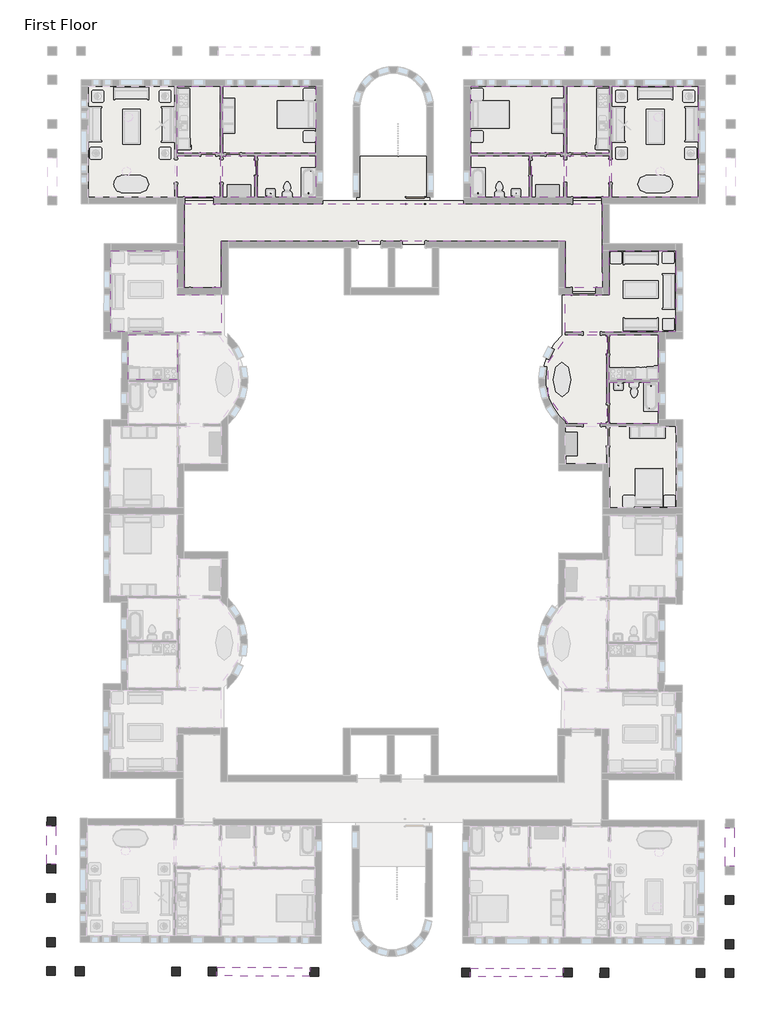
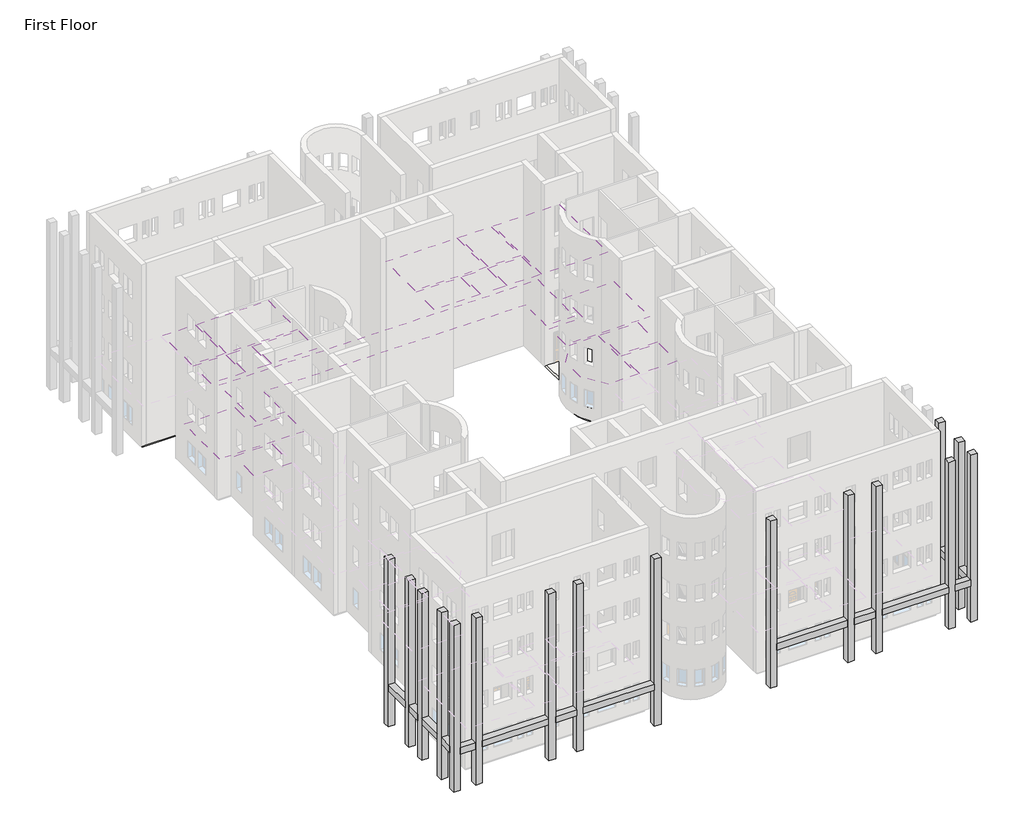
# One storey, part 17 of 23: 18 coverings, 16 columns, 5 slabs, 4 beams.
"""IFC4 building model written with IfcOpenShell, lengths in millimetres."""

from ifc_helpers import new_model, si_unit, point, frame, frame_2d, origin, place, context, project, spatial, polyline, circle_curve, trimmed, segment, composite_curve, outline, extrude, faceted_brep, element, save

model = new_model("IFC4")

# Units and contexts
model_context = context("Model", 3, world=origin())
ifc_project = project(units=[si_unit("LENGTHUNIT", "METRE", prefix="MILLI")], contexts=[model_context])

# Site, building, storey
site = spatial("IfcSite", under=ifc_project)
building = spatial("IfcBuilding", under=site)
storey = spatial("IfcBuildingStorey", under=building, Name="First Floor", Elevation=0.0)

# Beams
placement = place(None, origin())
element("IfcBeam", 1, ObjectType="M_Concrete-Rectangular Beam : 450 x 450", at=placement, inside=storey, context=model_context, shape_type="SweptSolid", body=[
    extrude(outline(polyline([(-1712.0689607, -43451.2055858), (-1713.3716449, -43901.2037003), (-2763.3672453, -43898.1641037), (-2762.0645611, -43448.1659892), (-1712.0689607, -43451.2055858)])), frame((0.0, 0.0, 2598.0), z_axis=(0.0, 0.0, 1.0), x_axis=(1.0, 0.0, 0.0)), (0.0, 0.0, 1.0), 450.0),
    extrude(outline(polyline([(-14955.3161596, -43862.8700448), (-14954.0134754, -43412.8719303), (-10112.0337638, -43426.888813), (-10113.3364481, -43876.8869274), (-14955.3161596, -43862.8700448)])), frame((0.0, 0.0, 2598.0), z_axis=(0.0, 0.0, 1.0), x_axis=(1.0, 0.0, 0.0)), (0.0, 0.0, 1.0), 450.0),
    extrude(outline(polyline([(-3212.0626755, -43446.863305), (-3213.3653598, -43896.8614194), (-7763.3462948, -43883.6898341), (-7762.0436106, -43433.6917196), (-3212.0626755, -43446.863305)])), frame((0.0, 0.0, 2598.0), z_axis=(0.0, 0.0, 1.0), x_axis=(1.0, 0.0, 0.0)), (0.0, 0.0, 1.0), 450.0),
    extrude(outline(polyline([(-8212.041725, -43432.3890354), (-8213.3444093, -43882.3871498), (-9663.3383336, -43878.1896117), (-9662.0356494, -43428.1914972), (-8212.041725, -43432.3890354)])), frame((0.0, 0.0, 2598.0), z_axis=(0.0, 0.0, 1.0), x_axis=(1.0, 0.0, 0.0)), (0.0, 0.0, 1.0), 450.0),
])
element("IfcBeam", 2, ObjectType="M_Concrete-Rectangular Beam : 450 x 450", at=placement, inside=storey, context=model_context, shape_type="SweptSolid", body=[
    extrude(outline(polyline([(-1690.8757352, -36130.2362615), (-1240.8776207, -36131.5389458), (-1246.6514068, -38126.0305886), (-1696.6495213, -38124.7279044), (-1690.8757352, -36130.2362615)])), frame((0.0, 0.0, 2598.0), z_axis=(0.0, 0.0, 1.0), x_axis=(1.0, 0.0, 0.0)), (0.0, 0.0, 1.0), 450.0),
    extrude(outline(polyline([(-1709.0293641, -42401.2099854), (-1259.0312496, -42402.5126697), (-1262.0708462, -43452.5082701), (-1712.0689607, -43451.2055858), (-1709.0293641, -42401.2099854)])), frame((0.0, 0.0, 2598.0), z_axis=(0.0, 0.0, 1.0), x_axis=(1.0, 0.0, 0.0)), (0.0, 0.0, 1.0), 450.0),
    extrude(outline(polyline([(-1257.7285653, -41952.5145552), (-1707.7266798, -41951.211871), (-1702.3712001, -40101.2196227), (-1252.3730856, -40102.5223069), (-1257.7285653, -41952.5145552)])), frame((0.0, 0.0, 2598.0), z_axis=(0.0, 0.0, 1.0), x_axis=(1.0, 0.0, 0.0)), (0.0, 0.0, 1.0), 450.0),
    extrude(outline(polyline([(-1251.0704013, -39652.5241925), (-1701.0685158, -39651.2215082), (-1697.9522056, -38574.7260188), (-1247.9540911, -38576.0287031), (-1251.0704013, -39652.5241925)])), frame((0.0, 0.0, 2598.0), z_axis=(0.0, 0.0, 1.0), x_axis=(1.0, 0.0, 0.0)), (0.0, 0.0, 1.0), 450.0),
])
element("IfcBeam", 3, ObjectType="M_Concrete-Rectangular Beam : 450 x 450", at=placement, inside=storey, context=model_context, shape_type="SweptSolid", body=[
    extrude(outline(polyline([(-36528.7257646, -43800.4179138), (-36527.4230803, -43350.4197994), (-35477.4274799, -43353.459396), (-35478.7301642, -43803.4575104), (-36528.7257646, -43800.4179138)])), frame((0.0, 0.0, 2598.0), z_axis=(0.0, 0.0, 1.0), x_axis=(1.0, 0.0, 0.0)), (0.0, 0.0, 1.0), 450.0),
    extrude(outline(polyline([(-23285.4785656, -43388.7534549), (-23286.7812498, -43838.7515694), (-28128.7609614, -43824.7346867), (-28127.4582771, -43374.7365723), (-23285.4785656, -43388.7534549)])), frame((0.0, 0.0, 2598.0), z_axis=(0.0, 0.0, 1.0), x_axis=(1.0, 0.0, 0.0)), (0.0, 0.0, 1.0), 450.0),
    extrude(outline(polyline([(-35028.7320497, -43804.7601947), (-35027.4293654, -43354.7620803), (-30477.4484304, -43367.9336656), (-30478.7511147, -43817.93178), (-35028.7320497, -43804.7601947)])), frame((0.0, 0.0, 2598.0), z_axis=(0.0, 0.0, 1.0), x_axis=(1.0, 0.0, 0.0)), (0.0, 0.0, 1.0), 450.0),
    extrude(outline(polyline([(-30028.7530002, -43819.2344643), (-30027.4503159, -43369.2363498), (-28577.4563916, -43373.433888), (-28578.7590758, -43823.4320025), (-30028.7530002, -43819.2344643)])), frame((0.0, 0.0, 2598.0), z_axis=(0.0, 0.0, 1.0), x_axis=(1.0, 0.0, 0.0)), (0.0, 0.0, 1.0), 450.0),
])
element("IfcBeam", 4, ObjectType="M_Concrete-Rectangular Beam : 450 x 450", at=placement, inside=storey, context=model_context, shape_type="SweptSolid", body=[
    extrude(outline(polyline([(-36956.2279692, -36028.1477908), (-36506.2298548, -36029.4504751), (-36512.0036409, -38023.9421179), (-36962.0017554, -38022.6394337), (-36956.2279692, -36028.1477908)])), frame((0.0, 0.0, 2598.0), z_axis=(0.0, 0.0, 1.0), x_axis=(1.0, 0.0, 0.0)), (0.0, 0.0, 1.0), 450.0),
    extrude(outline(polyline([(-36974.3815981, -42299.1215147), (-36524.3834837, -42300.424199), (-36527.4230803, -43350.4197994), (-36977.4211948, -43349.1171151), (-36974.3815981, -42299.1215147)])), frame((0.0, 0.0, 2598.0), z_axis=(0.0, 0.0, 1.0), x_axis=(1.0, 0.0, 0.0)), (0.0, 0.0, 1.0), 450.0),
    extrude(outline(polyline([(-36523.0807994, -41850.4260845), (-36973.0789139, -41849.1234003), (-36967.7234341, -39999.1311519), (-36517.7253197, -40000.4338362), (-36523.0807994, -41850.4260845)])), frame((0.0, 0.0, 2598.0), z_axis=(0.0, 0.0, 1.0), x_axis=(1.0, 0.0, 0.0)), (0.0, 0.0, 1.0), 450.0),
    extrude(outline(polyline([(-36516.4226354, -39550.4357218), (-36966.4207499, -39549.1330375), (-36963.3044396, -38472.6375481), (-36513.3063252, -38473.9402324), (-36516.4226354, -39550.4357218)])), frame((0.0, 0.0, 2598.0), z_axis=(0.0, 0.0, 1.0), x_axis=(1.0, 0.0, 0.0)), (0.0, 0.0, 1.0), 450.0),
])

# Columns
element("IfcColumn", 5, ObjectType="M_Concrete-Square-Column : 450 x 450mm", at=placement, inside=storey, context=model_context, shape_type="Brep", body=[
    faceted_brep([(-2763.3672453, -43898.1641037, 0.0), (-3213.3653598, -43896.8614194, 0.0), (-3212.0626755, -43446.863305, 0.0), (-2762.0645611, -43448.1659892, 0.0), (-2763.3672453, -43898.1641037, 12042.0), (-2763.3672453, -43898.1641037, 11742.0), (-2763.3672453, -43898.1641037, 9144.0), (-2763.3672453, -43898.1641037, 8694.0), (-2763.3672453, -43898.1641037, 6096.0), (-2763.3672453, -43898.1641037, 5646.0), (-2763.3672453, -43898.1641037, 3048.0), (-2763.3672453, -43898.1641037, 2598.0), (-2762.0645611, -43448.1659892, 2598.0), (-2762.0645611, -43448.1659892, 3048.0), (-2762.0645611, -43448.1659892, 5646.0), (-2762.0645611, -43448.1659892, 6096.0), (-2762.0645611, -43448.1659892, 8694.0), (-2762.0645611, -43448.1659892, 9144.0), (-2762.0645611, -43448.1659892, 11742.0), (-2762.0645611, -43448.1659892, 12042.0), (-3212.0626755, -43446.863305, 2598.0), (-3212.0626755, -43446.863305, 3048.0), (-3212.0626755, -43446.863305, 5646.0), (-3212.0626755, -43446.863305, 6096.0), (-3212.0626755, -43446.863305, 8694.0), (-3212.0626755, -43446.863305, 9144.0), (-3212.0626755, -43446.863305, 11742.0), (-3212.0626755, -43446.863305, 12042.0), (-3213.3653598, -43896.8614194, 2598.0), (-3213.3653598, -43896.8614194, 3048.0), (-3213.3653598, -43896.8614194, 5646.0), (-3213.3653598, -43896.8614194, 6096.0), (-3213.3653598, -43896.8614194, 8694.0), (-3213.3653598, -43896.8614194, 9144.0), (-3213.3653598, -43896.8614194, 11742.0), (-3213.3653598, -43896.8614194, 12042.0)], [[[0, 1, 2, 3]], [[4, 5, 6, 7, 8, 9, 10, 11, 0, 3, 12, 13, 14, 15, 16, 17, 18, 19]], [[19, 18, 17, 16, 15, 14, 13, 12, 3, 2, 20, 21, 22, 23, 24, 25, 26, 27]], [[27, 26, 25, 24, 23, 22, 21, 20, 2, 1, 28, 29, 30, 31, 32, 33, 34, 35]], [[35, 34, 33, 32, 31, 30, 29, 28, 1, 0, 11, 10, 9, 8, 7, 6, 5, 4]], [[4, 19, 27, 35]]]),
])
element("IfcColumn", 6, ObjectType="M_Concrete-Square-Column : 450 x 450mm", at=placement, inside=storey, context=model_context, shape_type="Brep", body=[
    faceted_brep([(-7763.3462948, -43883.6898341, 0.0), (-8213.3444093, -43882.3871498, 0.0), (-8212.041725, -43432.3890354, 0.0), (-7762.0436106, -43433.6917196, 0.0), (-7763.3462948, -43883.6898341, 12042.0), (-7763.3462948, -43883.6898341, 11742.0), (-7763.3462948, -43883.6898341, 9144.0), (-7763.3462948, -43883.6898341, 8694.0), (-7763.3462948, -43883.6898341, 6096.0), (-7763.3462948, -43883.6898341, 5646.0), (-7763.3462948, -43883.6898341, 3048.0), (-7763.3462948, -43883.6898341, 2598.0), (-7762.0436106, -43433.6917196, 2598.0), (-7762.0436106, -43433.6917196, 3048.0), (-7762.0436106, -43433.6917196, 5646.0), (-7762.0436106, -43433.6917196, 6096.0), (-7762.0436106, -43433.6917196, 8694.0), (-7762.0436106, -43433.6917196, 9144.0), (-7762.0436106, -43433.6917196, 11742.0), (-7762.0436106, -43433.6917196, 12042.0), (-8212.041725, -43432.3890354, 2598.0), (-8212.041725, -43432.3890354, 3048.0), (-8212.041725, -43432.3890354, 5646.0), (-8212.041725, -43432.3890354, 6096.0), (-8212.041725, -43432.3890354, 8694.0), (-8212.041725, -43432.3890354, 9144.0), (-8212.041725, -43432.3890354, 11742.0), (-8212.041725, -43432.3890354, 12042.0), (-8213.3444093, -43882.3871498, 2598.0), (-8213.3444093, -43882.3871498, 3048.0), (-8213.3444093, -43882.3871498, 5646.0), (-8213.3444093, -43882.3871498, 6096.0), (-8213.3444093, -43882.3871498, 8694.0), (-8213.3444093, -43882.3871498, 9144.0), (-8213.3444093, -43882.3871498, 11742.0), (-8213.3444093, -43882.3871498, 12042.0)], [[[0, 1, 2, 3]], [[4, 5, 6, 7, 8, 9, 10, 11, 0, 3, 12, 13, 14, 15, 16, 17, 18, 19]], [[19, 18, 17, 16, 15, 14, 13, 12, 3, 2, 20, 21, 22, 23, 24, 25, 26, 27]], [[27, 26, 25, 24, 23, 22, 21, 20, 2, 1, 28, 29, 30, 31, 32, 33, 34, 35]], [[35, 34, 33, 32, 31, 30, 29, 28, 1, 0, 11, 10, 9, 8, 7, 6, 5, 4]], [[4, 19, 27, 35]]]),
])
element("IfcColumn", 7, ObjectType="M_Concrete-Square-Column : 450 x 450mm", at=placement, inside=storey, context=model_context, shape_type="Brep", body=[
    faceted_brep([(-9663.3383336, -43878.1896117, 0.0), (-10113.3364481, -43876.8869274, 0.0), (-10112.0337638, -43426.888813, 0.0), (-9662.0356494, -43428.1914972, 0.0), (-9663.3383336, -43878.1896117, 12042.0), (-9663.3383336, -43878.1896117, 11742.0), (-9663.3383336, -43878.1896117, 9144.0), (-9663.3383336, -43878.1896117, 8694.0), (-9663.3383336, -43878.1896117, 6096.0), (-9663.3383336, -43878.1896117, 5646.0), (-9663.3383336, -43878.1896117, 3048.0), (-9663.3383336, -43878.1896117, 2598.0), (-9662.0356494, -43428.1914972, 2598.0), (-9662.0356494, -43428.1914972, 3048.0), (-9662.0356494, -43428.1914972, 5646.0), (-9662.0356494, -43428.1914972, 6096.0), (-9662.0356494, -43428.1914972, 8694.0), (-9662.0356494, -43428.1914972, 9144.0), (-9662.0356494, -43428.1914972, 11742.0), (-9662.0356494, -43428.1914972, 12042.0), (-10112.0337638, -43426.888813, 2598.0), (-10112.0337638, -43426.888813, 3048.0), (-10112.0337638, -43426.888813, 5646.0), (-10112.0337638, -43426.888813, 6096.0), (-10112.0337638, -43426.888813, 8694.0), (-10112.0337638, -43426.888813, 9144.0), (-10112.0337638, -43426.888813, 11742.0), (-10112.0337638, -43426.888813, 12042.0), (-10113.3364481, -43876.8869274, 2598.0), (-10113.3364481, -43876.8869274, 3048.0), (-10113.3364481, -43876.8869274, 5646.0), (-10113.3364481, -43876.8869274, 6096.0), (-10113.3364481, -43876.8869274, 8694.0), (-10113.3364481, -43876.8869274, 9144.0), (-10113.3364481, -43876.8869274, 11742.0), (-10113.3364481, -43876.8869274, 12042.0)], [[[0, 1, 2, 3]], [[4, 5, 6, 7, 8, 9, 10, 11, 0, 3, 12, 13, 14, 15, 16, 17, 18, 19]], [[19, 18, 17, 16, 15, 14, 13, 12, 3, 2, 20, 21, 22, 23, 24, 25, 26, 27]], [[27, 26, 25, 24, 23, 22, 21, 20, 2, 1, 28, 29, 30, 31, 32, 33, 34, 35]], [[35, 34, 33, 32, 31, 30, 29, 28, 1, 0, 11, 10, 9, 8, 7, 6, 5, 4]], [[4, 19, 27, 35]]]),
])
element("IfcColumn", 8, ObjectType="M_Concrete-Square-Column : 450 x 450mm", at=placement, inside=storey, context=model_context, shape_type="Brep", body=[
    faceted_brep([(-14955.3161596, -43862.8700448, 0.0), (-15405.3142741, -43861.5673605, 0.0), (-15404.0115898, -43411.569246, 0.0), (-14954.0134754, -43412.8719303, 0.0), (-14955.3161596, -43862.8700448, 12042.0), (-14955.3161596, -43862.8700448, 11742.0), (-14954.0134754, -43412.8719303, 11742.0), (-14954.0134754, -43412.8719303, 12042.0), (-15404.0115898, -43411.569246, 11742.0), (-15404.0115898, -43411.569246, 12042.0), (-15405.3142741, -43861.5673605, 11742.0), (-15405.3142741, -43861.5673605, 12042.0)], [[[0, 1, 2, 3]], [[4, 5, 0, 3, 6, 7]], [[7, 6, 3, 2, 8, 9]], [[9, 8, 2, 1, 10, 11]], [[11, 10, 1, 0, 5, 4]], [[4, 7, 9, 11]]]),
])
element("IfcColumn", 9, ObjectType="M_Concrete-Square-Column : 450 x 450mm", at=placement, inside=storey, context=model_context, shape_type="Brep", body=[
    faceted_brep([(-1263.3735305, -43902.5063845, 0.0), (-1713.3716449, -43901.2037003, 0.0), (-1712.0689607, -43451.2055858, 0.0), (-1262.0708462, -43452.5082701, 0.0), (-1263.3735305, -43902.5063845, 12042.0), (-1262.0708462, -43452.5082701, 11742.0), (-1262.0708462, -43452.5082701, 12042.0), (-1712.0689607, -43451.2055858, 11742.0), (-1712.0689607, -43451.2055858, 12042.0), (-1713.3716449, -43901.2037003, 11742.0), (-1713.3716449, -43901.2037003, 12042.0)], [[[0, 1, 2, 3]], [[4, 0, 3, 5, 6]], [[6, 5, 3, 2, 7, 8]], [[8, 7, 2, 1, 9, 10]], [[10, 9, 1, 0, 4]], [[4, 6, 8, 10]]]),
])
element("IfcColumn", 10, ObjectType="M_Concrete-Square-Column : 450 x 450mm", at=placement, inside=storey, context=model_context, shape_type="Brep", body=[
    faceted_brep([(-1259.0312496, -42402.5126697, 0.0), (-1709.0293641, -42401.2099854, 0.0), (-1707.7266798, -41951.211871, 0.0), (-1257.7285653, -41952.5145552, 0.0), (-1259.0312496, -42402.5126697, 12042.0), (-1259.0312496, -42402.5126697, 11742.0), (-1259.0312496, -42402.5126697, 9144.0), (-1259.0312496, -42402.5126697, 8694.0), (-1259.0312496, -42402.5126697, 6096.0), (-1259.0312496, -42402.5126697, 5646.0), (-1259.0312496, -42402.5126697, 3048.0), (-1259.0312496, -42402.5126697, 2598.0), (-1257.7285653, -41952.5145552, 2598.0), (-1257.7285653, -41952.5145552, 3048.0), (-1257.7285653, -41952.5145552, 5646.0), (-1257.7285653, -41952.5145552, 6096.0), (-1257.7285653, -41952.5145552, 8694.0), (-1257.7285653, -41952.5145552, 9144.0), (-1257.7285653, -41952.5145552, 11742.0), (-1257.7285653, -41952.5145552, 12042.0), (-1707.7266798, -41951.211871, 2598.0), (-1707.7266798, -41951.211871, 3048.0), (-1707.7266798, -41951.211871, 5646.0), (-1707.7266798, -41951.211871, 6096.0), (-1707.7266798, -41951.211871, 8694.0), (-1707.7266798, -41951.211871, 9144.0), (-1707.7266798, -41951.211871, 11742.0), (-1707.7266798, -41951.211871, 12042.0), (-1709.0293641, -42401.2099854, 2598.0), (-1709.0293641, -42401.2099854, 3048.0), (-1709.0293641, -42401.2099854, 5646.0), (-1709.0293641, -42401.2099854, 6096.0), (-1709.0293641, -42401.2099854, 8694.0), (-1709.0293641, -42401.2099854, 9144.0), (-1709.0293641, -42401.2099854, 11742.0), (-1709.0293641, -42401.2099854, 12042.0)], [[[0, 1, 2, 3]], [[4, 5, 6, 7, 8, 9, 10, 11, 0, 3, 12, 13, 14, 15, 16, 17, 18, 19]], [[19, 18, 17, 16, 15, 14, 13, 12, 3, 2, 20, 21, 22, 23, 24, 25, 26, 27]], [[27, 26, 25, 24, 23, 22, 21, 20, 2, 1, 28, 29, 30, 31, 32, 33, 34, 35]], [[35, 34, 33, 32, 31, 30, 29, 28, 1, 0, 11, 10, 9, 8, 7, 6, 5, 4]], [[4, 19, 27, 35]]]),
])
element("IfcColumn", 11, ObjectType="M_Concrete-Square-Column : 450 x 450mm", at=placement, inside=storey, context=model_context, shape_type="Brep", body=[
    faceted_brep([(-1252.3730856, -40102.5223069, 0.0), (-1702.3712001, -40101.2196227, 0.0), (-1701.0685158, -39651.2215082, 0.0), (-1251.0704013, -39652.5241925, 0.0), (-1252.3730856, -40102.5223069, 12042.0), (-1252.3730856, -40102.5223069, 11742.0), (-1252.3730856, -40102.5223069, 9144.0), (-1252.3730856, -40102.5223069, 8694.0), (-1252.3730856, -40102.5223069, 6096.0), (-1252.3730856, -40102.5223069, 5646.0), (-1252.3730856, -40102.5223069, 3048.0), (-1252.3730856, -40102.5223069, 2598.0), (-1251.0704013, -39652.5241925, 2598.0), (-1251.0704013, -39652.5241925, 3048.0), (-1251.0704013, -39652.5241925, 5646.0), (-1251.0704013, -39652.5241925, 6096.0), (-1251.0704013, -39652.5241925, 8694.0), (-1251.0704013, -39652.5241925, 9144.0), (-1251.0704013, -39652.5241925, 11742.0), (-1251.0704013, -39652.5241925, 12042.0), (-1701.0685158, -39651.2215082, 2598.0), (-1701.0685158, -39651.2215082, 3048.0), (-1701.0685158, -39651.2215082, 5646.0), (-1701.0685158, -39651.2215082, 6096.0), (-1701.0685158, -39651.2215082, 8694.0), (-1701.0685158, -39651.2215082, 9144.0), (-1701.0685158, -39651.2215082, 11742.0), (-1701.0685158, -39651.2215082, 12042.0), (-1702.3712001, -40101.2196227, 2598.0), (-1702.3712001, -40101.2196227, 3048.0), (-1702.3712001, -40101.2196227, 5646.0), (-1702.3712001, -40101.2196227, 6096.0), (-1702.3712001, -40101.2196227, 8694.0), (-1702.3712001, -40101.2196227, 9144.0), (-1702.3712001, -40101.2196227, 11742.0), (-1702.3712001, -40101.2196227, 12042.0)], [[[0, 1, 2, 3]], [[4, 5, 6, 7, 8, 9, 10, 11, 0, 3, 12, 13, 14, 15, 16, 17, 18, 19]], [[19, 18, 17, 16, 15, 14, 13, 12, 3, 2, 20, 21, 22, 23, 24, 25, 26, 27]], [[27, 26, 25, 24, 23, 22, 21, 20, 2, 1, 28, 29, 30, 31, 32, 33, 34, 35]], [[35, 34, 33, 32, 31, 30, 29, 28, 1, 0, 11, 10, 9, 8, 7, 6, 5, 4]], [[4, 19, 27, 35]]]),
])
element("IfcColumn", 12, ObjectType="M_Concrete-Square-Column : 450 x 450mm", at=placement, inside=storey, context=model_context, shape_type="Brep", body=[
    faceted_brep([(-35478.7301642, -43803.4575104, 0.0), (-35477.4274799, -43353.459396, 0.0), (-35027.4293654, -43354.7620803, 0.0), (-35028.7320497, -43804.7601947, 0.0), (-35478.7301642, -43803.4575104, 12042.0), (-35477.4274799, -43353.459396, 12042.0), (-35477.4274799, -43353.459396, 11742.0), (-35477.4274799, -43353.459396, 9144.0), (-35477.4274799, -43353.459396, 8694.0), (-35477.4274799, -43353.459396, 6096.0), (-35477.4274799, -43353.459396, 5646.0), (-35477.4274799, -43353.459396, 3048.0), (-35477.4274799, -43353.459396, 2598.0), (-35478.7301642, -43803.4575104, 2598.0), (-35478.7301642, -43803.4575104, 3048.0), (-35478.7301642, -43803.4575104, 5646.0), (-35478.7301642, -43803.4575104, 6096.0), (-35478.7301642, -43803.4575104, 8694.0), (-35478.7301642, -43803.4575104, 9144.0), (-35478.7301642, -43803.4575104, 11742.0), (-35027.4293654, -43354.7620803, 12042.0), (-35027.4293654, -43354.7620803, 11742.0), (-35027.4293654, -43354.7620803, 9144.0), (-35027.4293654, -43354.7620803, 8694.0), (-35027.4293654, -43354.7620803, 6096.0), (-35027.4293654, -43354.7620803, 5646.0), (-35027.4293654, -43354.7620803, 3048.0), (-35027.4293654, -43354.7620803, 2598.0), (-35028.7320497, -43804.7601947, 12042.0), (-35028.7320497, -43804.7601947, 11742.0), (-35028.7320497, -43804.7601947, 9144.0), (-35028.7320497, -43804.7601947, 8694.0), (-35028.7320497, -43804.7601947, 6096.0), (-35028.7320497, -43804.7601947, 5646.0), (-35028.7320497, -43804.7601947, 3048.0), (-35028.7320497, -43804.7601947, 2598.0)], [[[0, 1, 2, 3]], [[4, 5, 6, 7, 8, 9, 10, 11, 12, 1, 0, 13, 14, 15, 16, 17, 18, 19]], [[5, 20, 21, 22, 23, 24, 25, 26, 27, 2, 1, 12, 11, 10, 9, 8, 7, 6]], [[20, 28, 29, 30, 31, 32, 33, 34, 35, 3, 2, 27, 26, 25, 24, 23, 22, 21]], [[28, 4, 19, 18, 17, 16, 15, 14, 13, 0, 3, 35, 34, 33, 32, 31, 30, 29]], [[4, 28, 20, 5]]]),
])
element("IfcColumn", 13, ObjectType="M_Concrete-Square-Column : 450 x 450mm", at=placement, inside=storey, context=model_context, shape_type="Brep", body=[
    faceted_brep([(-30478.7511147, -43817.93178, 0.0), (-30477.4484304, -43367.9336656, 0.0), (-30027.4503159, -43369.2363498, 0.0), (-30028.7530002, -43819.2344643, 0.0), (-30478.7511147, -43817.93178, 12042.0), (-30477.4484304, -43367.9336656, 12042.0), (-30477.4484304, -43367.9336656, 11742.0), (-30477.4484304, -43367.9336656, 9144.0), (-30477.4484304, -43367.9336656, 8694.0), (-30477.4484304, -43367.9336656, 6096.0), (-30477.4484304, -43367.9336656, 5646.0), (-30477.4484304, -43367.9336656, 3048.0), (-30477.4484304, -43367.9336656, 2598.0), (-30478.7511147, -43817.93178, 2598.0), (-30478.7511147, -43817.93178, 3048.0), (-30478.7511147, -43817.93178, 5646.0), (-30478.7511147, -43817.93178, 6096.0), (-30478.7511147, -43817.93178, 8694.0), (-30478.7511147, -43817.93178, 9144.0), (-30478.7511147, -43817.93178, 11742.0), (-30027.4503159, -43369.2363498, 12042.0), (-30027.4503159, -43369.2363498, 11742.0), (-30027.4503159, -43369.2363498, 9144.0), (-30027.4503159, -43369.2363498, 8694.0), (-30027.4503159, -43369.2363498, 6096.0), (-30027.4503159, -43369.2363498, 5646.0), (-30027.4503159, -43369.2363498, 3048.0), (-30027.4503159, -43369.2363498, 2598.0), (-30028.7530002, -43819.2344643, 12042.0), (-30028.7530002, -43819.2344643, 11742.0), (-30028.7530002, -43819.2344643, 9144.0), (-30028.7530002, -43819.2344643, 8694.0), (-30028.7530002, -43819.2344643, 6096.0), (-30028.7530002, -43819.2344643, 5646.0), (-30028.7530002, -43819.2344643, 3048.0), (-30028.7530002, -43819.2344643, 2598.0)], [[[0, 1, 2, 3]], [[4, 5, 6, 7, 8, 9, 10, 11, 12, 1, 0, 13, 14, 15, 16, 17, 18, 19]], [[5, 20, 21, 22, 23, 24, 25, 26, 27, 2, 1, 12, 11, 10, 9, 8, 7, 6]], [[20, 28, 29, 30, 31, 32, 33, 34, 35, 3, 2, 27, 26, 25, 24, 23, 22, 21]], [[28, 4, 19, 18, 17, 16, 15, 14, 13, 0, 3, 35, 34, 33, 32, 31, 30, 29]], [[4, 28, 20, 5]]]),
])
element("IfcColumn", 14, ObjectType="M_Concrete-Square-Column : 450 x 450mm", at=placement, inside=storey, context=model_context, shape_type="Brep", body=[
    faceted_brep([(-28578.7590758, -43823.4320025, 0.0), (-28577.4563916, -43373.433888, 0.0), (-28127.4582771, -43374.7365723, 0.0), (-28128.7609614, -43824.7346867, 0.0), (-28578.7590758, -43823.4320025, 12042.0), (-28577.4563916, -43373.433888, 12042.0), (-28577.4563916, -43373.433888, 11742.0), (-28577.4563916, -43373.433888, 9144.0), (-28577.4563916, -43373.433888, 8694.0), (-28577.4563916, -43373.433888, 6096.0), (-28577.4563916, -43373.433888, 5646.0), (-28577.4563916, -43373.433888, 3048.0), (-28577.4563916, -43373.433888, 2598.0), (-28578.7590758, -43823.4320025, 2598.0), (-28578.7590758, -43823.4320025, 3048.0), (-28578.7590758, -43823.4320025, 5646.0), (-28578.7590758, -43823.4320025, 6096.0), (-28578.7590758, -43823.4320025, 8694.0), (-28578.7590758, -43823.4320025, 9144.0), (-28578.7590758, -43823.4320025, 11742.0), (-28127.4582771, -43374.7365723, 12042.0), (-28127.4582771, -43374.7365723, 11742.0), (-28127.4582771, -43374.7365723, 9144.0), (-28127.4582771, -43374.7365723, 8694.0), (-28127.4582771, -43374.7365723, 6096.0), (-28127.4582771, -43374.7365723, 5646.0), (-28127.4582771, -43374.7365723, 3048.0), (-28127.4582771, -43374.7365723, 2598.0), (-28128.7609614, -43824.7346867, 12042.0), (-28128.7609614, -43824.7346867, 11742.0), (-28128.7609614, -43824.7346867, 9144.0), (-28128.7609614, -43824.7346867, 8694.0), (-28128.7609614, -43824.7346867, 6096.0), (-28128.7609614, -43824.7346867, 5646.0), (-28128.7609614, -43824.7346867, 3048.0), (-28128.7609614, -43824.7346867, 2598.0)], [[[0, 1, 2, 3]], [[4, 5, 6, 7, 8, 9, 10, 11, 12, 1, 0, 13, 14, 15, 16, 17, 18, 19]], [[5, 20, 21, 22, 23, 24, 25, 26, 27, 2, 1, 12, 11, 10, 9, 8, 7, 6]], [[20, 28, 29, 30, 31, 32, 33, 34, 35, 3, 2, 27, 26, 25, 24, 23, 22, 21]], [[28, 4, 19, 18, 17, 16, 15, 14, 13, 0, 3, 35, 34, 33, 32, 31, 30, 29]], [[4, 28, 20, 5]]]),
])
element("IfcColumn", 15, ObjectType="M_Concrete-Square-Column : 450 x 450mm", at=placement, inside=storey, context=model_context, shape_type="Brep", body=[
    faceted_brep([(-23286.7812498, -43838.7515694, 0.0), (-23285.4785656, -43388.7534549, 0.0), (-22835.4804511, -43390.0561392, 0.0), (-22836.7831354, -43840.0542536, 0.0), (-23286.7812498, -43838.7515694, 12042.0), (-23285.4785656, -43388.7534549, 12042.0), (-23285.4785656, -43388.7534549, 11742.0), (-23286.7812498, -43838.7515694, 11742.0), (-22835.4804511, -43390.0561392, 12042.0), (-22835.4804511, -43390.0561392, 11742.0), (-22836.7831354, -43840.0542536, 12042.0), (-22836.7831354, -43840.0542536, 11742.0)], [[[0, 1, 2, 3]], [[4, 5, 6, 1, 0, 7]], [[5, 8, 9, 2, 1, 6]], [[8, 10, 11, 3, 2, 9]], [[10, 4, 7, 0, 3, 11]], [[4, 10, 8, 5]]]),
])
element("IfcColumn", 16, ObjectType="M_Concrete-Square-Column : 450 x 450mm", at=placement, inside=storey, context=model_context, shape_type="Brep", body=[
    faceted_brep([(-36978.723879, -43799.1152296, 0.0), (-36977.4211948, -43349.1171151, 0.0), (-36527.4230803, -43350.4197994, 0.0), (-36528.7257646, -43800.4179138, 0.0), (-36978.723879, -43799.1152296, 12042.0), (-36977.4211948, -43349.1171151, 12042.0), (-36977.4211948, -43349.1171151, 11742.0), (-36527.4230803, -43350.4197994, 12042.0), (-36527.4230803, -43350.4197994, 11742.0), (-36528.7257646, -43800.4179138, 12042.0), (-36528.7257646, -43800.4179138, 11742.0)], [[[0, 1, 2, 3]], [[4, 5, 6, 1, 0]], [[5, 7, 8, 2, 1, 6]], [[7, 9, 10, 3, 2, 8]], [[9, 4, 0, 3, 10]], [[4, 9, 7, 5]]]),
])
element("IfcColumn", 17, ObjectType="M_Concrete-Square-Column : 450 x 450mm", at=placement, inside=storey, context=model_context, shape_type="Brep", body=[
    faceted_brep([(-36974.3815981, -42299.1215147, 0.0), (-36973.0789139, -41849.1234003, 0.0), (-36523.0807994, -41850.4260845, 0.0), (-36524.3834837, -42300.424199, 0.0), (-36974.3815981, -42299.1215147, 12042.0), (-36973.0789139, -41849.1234003, 12042.0), (-36973.0789139, -41849.1234003, 11742.0), (-36973.0789139, -41849.1234003, 9144.0), (-36973.0789139, -41849.1234003, 8694.0), (-36973.0789139, -41849.1234003, 6096.0), (-36973.0789139, -41849.1234003, 5646.0), (-36973.0789139, -41849.1234003, 3048.0), (-36973.0789139, -41849.1234003, 2598.0), (-36974.3815981, -42299.1215147, 2598.0), (-36974.3815981, -42299.1215147, 3048.0), (-36974.3815981, -42299.1215147, 5646.0), (-36974.3815981, -42299.1215147, 6096.0), (-36974.3815981, -42299.1215147, 8694.0), (-36974.3815981, -42299.1215147, 9144.0), (-36974.3815981, -42299.1215147, 11742.0), (-36523.0807994, -41850.4260845, 12042.0), (-36523.0807994, -41850.4260845, 11742.0), (-36523.0807994, -41850.4260845, 9144.0), (-36523.0807994, -41850.4260845, 8694.0), (-36523.0807994, -41850.4260845, 6096.0), (-36523.0807994, -41850.4260845, 5646.0), (-36523.0807994, -41850.4260845, 3048.0), (-36523.0807994, -41850.4260845, 2598.0), (-36524.3834837, -42300.424199, 12042.0), (-36524.3834837, -42300.424199, 11742.0), (-36524.3834837, -42300.424199, 9144.0), (-36524.3834837, -42300.424199, 8694.0), (-36524.3834837, -42300.424199, 6096.0), (-36524.3834837, -42300.424199, 5646.0), (-36524.3834837, -42300.424199, 3048.0), (-36524.3834837, -42300.424199, 2598.0)], [[[0, 1, 2, 3]], [[4, 5, 6, 7, 8, 9, 10, 11, 12, 1, 0, 13, 14, 15, 16, 17, 18, 19]], [[5, 20, 21, 22, 23, 24, 25, 26, 27, 2, 1, 12, 11, 10, 9, 8, 7, 6]], [[20, 28, 29, 30, 31, 32, 33, 34, 35, 3, 2, 27, 26, 25, 24, 23, 22, 21]], [[28, 4, 19, 18, 17, 16, 15, 14, 13, 0, 3, 35, 34, 33, 32, 31, 30, 29]], [[4, 28, 20, 5]]]),
])
element("IfcColumn", 18, ObjectType="M_Concrete-Square-Column : 450 x 450mm", at=placement, inside=storey, context=model_context, shape_type="Brep", body=[
    faceted_brep([(-36967.7234341, -39999.1311519, 0.0), (-36966.4207499, -39549.1330375, 0.0), (-36516.4226354, -39550.4357218, 0.0), (-36517.7253197, -40000.4338362, 0.0), (-36967.7234341, -39999.1311519, 12042.0), (-36966.4207499, -39549.1330375, 12042.0), (-36966.4207499, -39549.1330375, 11742.0), (-36966.4207499, -39549.1330375, 9144.0), (-36966.4207499, -39549.1330375, 8694.0), (-36966.4207499, -39549.1330375, 6096.0), (-36966.4207499, -39549.1330375, 5646.0), (-36966.4207499, -39549.1330375, 3048.0), (-36966.4207499, -39549.1330375, 2598.0), (-36967.7234341, -39999.1311519, 2598.0), (-36967.7234341, -39999.1311519, 3048.0), (-36967.7234341, -39999.1311519, 5646.0), (-36967.7234341, -39999.1311519, 6096.0), (-36967.7234341, -39999.1311519, 8694.0), (-36967.7234341, -39999.1311519, 9144.0), (-36967.7234341, -39999.1311519, 11742.0), (-36516.4226354, -39550.4357218, 12042.0), (-36516.4226354, -39550.4357218, 11742.0), (-36516.4226354, -39550.4357218, 9144.0), (-36516.4226354, -39550.4357218, 8694.0), (-36516.4226354, -39550.4357218, 6096.0), (-36516.4226354, -39550.4357218, 5646.0), (-36516.4226354, -39550.4357218, 3048.0), (-36516.4226354, -39550.4357218, 2598.0), (-36517.7253197, -40000.4338362, 12042.0), (-36517.7253197, -40000.4338362, 11742.0), (-36517.7253197, -40000.4338362, 9144.0), (-36517.7253197, -40000.4338362, 8694.0), (-36517.7253197, -40000.4338362, 6096.0), (-36517.7253197, -40000.4338362, 5646.0), (-36517.7253197, -40000.4338362, 3048.0), (-36517.7253197, -40000.4338362, 2598.0)], [[[0, 1, 2, 3]], [[4, 5, 6, 7, 8, 9, 10, 11, 12, 1, 0, 13, 14, 15, 16, 17, 18, 19]], [[5, 20, 21, 22, 23, 24, 25, 26, 27, 2, 1, 12, 11, 10, 9, 8, 7, 6]], [[20, 28, 29, 30, 31, 32, 33, 34, 35, 3, 2, 27, 26, 25, 24, 23, 22, 21]], [[28, 4, 19, 18, 17, 16, 15, 14, 13, 0, 3, 35, 34, 33, 32, 31, 30, 29]], [[4, 28, 20, 5]]]),
])
element("IfcColumn", 19, ObjectType="M_Concrete-Square-Column : 450 x 450mm", at=placement, inside=storey, context=model_context, shape_type="Brep", body=[
    faceted_brep([(-36963.3044396, -38472.6375481, 0.0), (-36962.0017554, -38022.6394337, 0.0), (-36512.0036409, -38023.9421179, 0.0), (-36513.3063252, -38473.9402324, 0.0), (-36963.3044396, -38472.6375481, 12042.0), (-36962.0017554, -38022.6394337, 12042.0), (-36962.0017554, -38022.6394337, 11742.0), (-36962.0017554, -38022.6394337, 9144.0), (-36962.0017554, -38022.6394337, 8694.0), (-36962.0017554, -38022.6394337, 6096.0), (-36962.0017554, -38022.6394337, 5646.0), (-36962.0017554, -38022.6394337, 3048.0), (-36962.0017554, -38022.6394337, 2598.0), (-36963.3044396, -38472.6375481, 2598.0), (-36963.3044396, -38472.6375481, 3048.0), (-36963.3044396, -38472.6375481, 5646.0), (-36963.3044396, -38472.6375481, 6096.0), (-36963.3044396, -38472.6375481, 8694.0), (-36963.3044396, -38472.6375481, 9144.0), (-36963.3044396, -38472.6375481, 11742.0), (-36512.0036409, -38023.9421179, 12042.0), (-36512.0036409, -38023.9421179, 11742.0), (-36512.0036409, -38023.9421179, 9144.0), (-36512.0036409, -38023.9421179, 8694.0), (-36512.0036409, -38023.9421179, 6096.0), (-36512.0036409, -38023.9421179, 5646.0), (-36512.0036409, -38023.9421179, 3048.0), (-36512.0036409, -38023.9421179, 2598.0), (-36513.3063252, -38473.9402324, 12042.0), (-36513.3063252, -38473.9402324, 11742.0), (-36513.3063252, -38473.9402324, 9144.0), (-36513.3063252, -38473.9402324, 8694.0), (-36513.3063252, -38473.9402324, 6096.0), (-36513.3063252, -38473.9402324, 5646.0), (-36513.3063252, -38473.9402324, 3048.0), (-36513.3063252, -38473.9402324, 2598.0)], [[[0, 1, 2, 3]], [[4, 5, 6, 7, 8, 9, 10, 11, 12, 1, 0, 13, 14, 15, 16, 17, 18, 19]], [[5, 20, 21, 22, 23, 24, 25, 26, 27, 2, 1, 12, 11, 10, 9, 8, 7, 6]], [[20, 28, 29, 30, 31, 32, 33, 34, 35, 3, 2, 27, 26, 25, 24, 23, 22, 21]], [[28, 4, 19, 18, 17, 16, 15, 14, 13, 0, 3, 35, 34, 33, 32, 31, 30, 29]], [[4, 28, 20, 5]]]),
])
element("IfcColumn", 20, ObjectType="M_Concrete-Square-Column : 450 x 450mm", at=placement, inside=storey, context=model_context, shape_type="Brep", body=[
    faceted_brep([(-36956.2279692, -36028.1477908, 0.0), (-36954.925285, -35578.1496764, 0.0), (-36504.9271705, -35579.4523606, 0.0), (-36506.2298548, -36029.4504751, 0.0), (-36956.2279692, -36028.1477908, 12042.0), (-36954.925285, -35578.1496764, 12042.0), (-36954.925285, -35578.1496764, 11742.0), (-36956.2279692, -36028.1477908, 11742.0), (-36504.9271705, -35579.4523606, 12042.0), (-36504.9271705, -35579.4523606, 11742.0), (-36506.2298548, -36029.4504751, 12042.0), (-36506.2298548, -36029.4504751, 11742.0)], [[[0, 1, 2, 3]], [[4, 5, 6, 1, 0, 7]], [[5, 8, 9, 2, 1, 6]], [[8, 10, 11, 3, 2, 9]], [[10, 4, 7, 0, 3, 11]], [[4, 10, 8, 5]]]),
])

# Coverings
element("IfcCovering", 21, ObjectType="GWB on Metal stud", at=placement, inside=storey, context=model_context, shape_type="SweptSolid", body=[
    extrude(outline(polyline([(-14935.3416203, 2406.1188386), (-10086.8416203, 2406.1188386), (-10086.8416203, -1070.3811614), (-14935.3416203, -1070.3811614), (-14935.3416203, 2406.1188386)])), frame((0.0, 0.0, 2590.0), z_axis=(0.0, 0.0, 1.0), x_axis=(1.0, 0.0, 0.0)), (0.0, 0.0, 1.0), 57.0),
])
element("IfcCovering", 22, ObjectType="GWB on Metal stud", at=placement, inside=storey, context=model_context, shape_type="SweptSolid", body=[
    extrude(outline(polyline([(-9951.3416203, -1070.3811614), (-9951.3416203, 2406.1188386), (-7733.0916203, 2406.1188386), (-7733.0916203, -1070.3811614), (-9951.3416203, -1070.3811614)])), frame((0.0, 0.0, 2590.0), z_axis=(0.0, 0.0, 1.0), x_axis=(1.0, 0.0, 0.0)), (0.0, 0.0, 1.0), 57.0),
])
element("IfcCovering", 23, ObjectType="GWB on Metal stud", at=placement, inside=storey, context=model_context, shape_type="SweptSolid", body=[
    extrude(outline(polyline([(-7597.5916203, -3339.8811614), (-7597.5916203, 2406.1188386), (-3093.3416203, 2406.1188386), (-3093.3416203, -3339.8811614), (-7597.5916203, -3339.8811614)])), frame((0.0, 0.0, 2590.0), z_axis=(0.0, 0.0, 1.0), x_axis=(1.0, 0.0, 0.0)), (0.0, 0.0, 1.0), 57.0),
])
element("IfcCovering", 24, ObjectType="GWB on Metal stud", at=placement, inside=storey, context=model_context, shape_type="SweptSolid", body=[
    extrude(outline(polyline([(-7733.0916203, -3339.8811614), (-9951.3416203, -3339.8811614), (-9951.3416203, -1205.8811614), (-7733.0916203, -1205.8811614), (-7733.0916203, -3339.8811614)])), frame((0.0, 0.0, 2590.0), z_axis=(0.0, 0.0, 1.0), x_axis=(1.0, 0.0, 0.0)), (0.0, 0.0, 1.0), 57.0),
])
element("IfcCovering", 25, ObjectType="GWB on Metal stud", at=placement, inside=storey, context=model_context, shape_type="SweptSolid", body=[
    extrude(outline(polyline([(-11887.3416203, -1205.8811614), (-11887.3416203, -3339.8811614), (-14935.3416203, -3339.8811614), (-14935.3416203, -1205.8811614), (-11887.3416203, -1205.8811614)])), frame((0.0, 0.0, 2590.0), z_axis=(0.0, 0.0, 1.0), x_axis=(1.0, 0.0, 0.0)), (0.0, 0.0, 1.0), 57.0),
])
element("IfcCovering", 26, ObjectType="GWB on Metal stud", at=placement, inside=storey, context=model_context, shape_type="SweptSolid", body=[
    extrude(outline(polyline([(-10086.8416203, -3339.8811614), (-11751.8416203, -3339.8811614), (-11751.8416203, -1205.8811614), (-10086.8416203, -1205.8811614), (-10086.8416203, -3339.8811614)])), frame((0.0, 0.0, 2590.0), z_axis=(0.0, 0.0, 1.0), x_axis=(1.0, 0.0, 0.0)), (0.0, 0.0, 1.0), 57.0),
])
element("IfcCovering", 27, ObjectType="GWB on Metal stud", at=placement, inside=storey, context=model_context, shape_type="SweptSolid", body=[
    extrude(outline(polyline([(-22978.8416203, 2406.1188386), (-22978.8416203, -1070.3811614), (-27827.3416203, -1070.3811614), (-27827.3416203, 2406.1188386), (-22978.8416203, 2406.1188386)])), frame((0.0, 0.0, 2590.0), z_axis=(0.0, 0.0, 1.0), x_axis=(1.0, 0.0, 0.0)), (0.0, 0.0, 1.0), 57.0),
])
element("IfcCovering", 28, ObjectType="GWB on Metal stud", at=placement, inside=storey, context=model_context, shape_type="SweptSolid", body=[
    extrude(outline(polyline([(-27962.8416203, -1070.3811614), (-30181.0916203, -1070.3811614), (-30181.0916203, 2406.1188386), (-27962.8416203, 2406.1188386), (-27962.8416203, -1070.3811614)])), frame((0.0, 0.0, 2590.0), z_axis=(0.0, 0.0, 1.0), x_axis=(1.0, 0.0, 0.0)), (0.0, 0.0, 1.0), 57.0),
])
element("IfcCovering", 29, ObjectType="GWB on Metal stud", at=placement, inside=storey, context=model_context, shape_type="SweptSolid", body=[
    extrude(outline(polyline([(-30181.0916203, -3339.8811614), (-30181.0916203, -1205.8811614), (-27962.8416203, -1205.8811614), (-27962.8416203, -3339.8811614), (-30181.0916203, -3339.8811614)])), frame((0.0, 0.0, 2590.0), z_axis=(0.0, 0.0, 1.0), x_axis=(1.0, 0.0, 0.0)), (0.0, 0.0, 1.0), 57.0),
])
element("IfcCovering", 30, ObjectType="GWB on Metal stud", at=placement, inside=storey, context=model_context, shape_type="SweptSolid", body=[
    extrude(outline(polyline([(-26026.8416203, -1205.8811614), (-22978.8416203, -1205.8811614), (-22978.8416203, -3339.8811614), (-26026.8416203, -3339.8811614), (-26026.8416203, -1205.8811614)])), frame((0.0, 0.0, 2590.0), z_axis=(0.0, 0.0, 1.0), x_axis=(1.0, 0.0, 0.0)), (0.0, 0.0, 1.0), 57.0),
])
element("IfcCovering", 31, ObjectType="GWB on Metal stud", at=placement, inside=storey, context=model_context, shape_type="SweptSolid", body=[
    extrude(outline(polyline([(-27827.3416203, -3339.8811614), (-27827.3416203, -1205.8811614), (-26162.3416203, -1205.8811614), (-26162.3416203, -3339.8811614), (-27827.3416203, -3339.8811614)])), frame((0.0, 0.0, 2590.0), z_axis=(0.0, 0.0, 1.0), x_axis=(1.0, 0.0, 0.0)), (0.0, 0.0, 1.0), 57.0),
])
element("IfcCovering", 32, ObjectType="Plain", at=placement, inside=storey, context=model_context, shape_type="SweptSolid", body=[
    extrude(outline(polyline([(-27895.0916203, -5625.8811614), (-27895.0916203, -8064.2811614), (-29831.0916203, -8064.2811614), (-29831.0916203, -3689.8811614), (-8083.0916203, -3689.8811614), (-8083.0916203, -8064.2811614), (-10019.0916203, -8064.2811614), (-10019.0916203, -5625.8811614), (-27895.0916203, -5625.8811614)])), frame((0.0, 0.0, 2591.0), z_axis=(0.0, 0.0, 1.0), x_axis=(1.0, 0.0, 0.0)), (0.0, 0.0, 1.0), 57.0),
])
element("IfcCovering", 33, ObjectType="Plain", at=placement, inside=storey, context=model_context, shape_type="SweptSolid", body=[
    extrude(outline(polyline([(-7730.1155353, -15129.0276542), (-7733.2504483, -12963.179923), (-5180.4031225, -12959.4848553), (-5177.2682095, -15125.3325865), (-7730.1155353, -15129.0276542)])), frame((0.0, 0.0, 2591.0), z_axis=(0.0, 0.0, 1.0), x_axis=(1.0, 0.0, 0.0)), (0.0, 0.0, 1.0), 57.0),
])
element("IfcCovering", 34, ObjectType="Plain", at=placement, inside=storey, context=model_context, shape_type="SweptSolid", body=[
    extrude(outline(polyline([(-7733.4465749, -12827.680065), (-7736.8265375, -10492.5325111), (-5183.9792116, -10488.8374433), (-5180.599249, -12823.9849972), (-7733.4465749, -12827.680065)])), frame((0.0, 0.0, 2591.0), z_axis=(0.0, 0.0, 1.0), x_axis=(1.0, 0.0, 0.0)), (0.0, 0.0, 1.0), 57.0),
])
element("IfcCovering", 35, ObjectType="Plain", at=placement, inside=storey, context=model_context, shape_type="SweptSolid", body=[
    extrude(outline(polyline([(-10015.770277, -10360.3309807), (-10018.5829924, -8417.0830163), (-7732.585387, -8413.7741948), (-7735.8942085, -6127.7765894), (-4275.8978329, -6122.7684869), (-4269.7867899, -10344.7640643), (-5009.1860154, -10345.8342929), (-5009.1755215, -10353.0842853), (-10015.770277, -10360.3309807)])), frame((0.0, 0.0, 2591.0), z_axis=(0.0, 0.0, 1.0), x_axis=(1.0, 0.0, 0.0)), (0.0, 0.0, 1.0), 57.0),
])
element("IfcCovering", 36, ObjectType="Plain", at=placement, inside=storey, context=model_context, shape_type="SweptSolid", body=[
    extrude(outline(composite_curve([segment(polyline([(-9871.5226854, -10495.6223343), (-7872.3263955, -10492.7286377), (-7865.6153934, -15129.2237808), (-9864.8116833, -15132.1174775)]), True, "CONTINUOUS"), segment(trimmed(circle_curve(frame_2d((-8171.1580789, -12811.413604)), 2873.0), [point((-9864.8116833, -15132.1174775))], [point((-9871.5226854, -10495.6223343))], False, "CARTESIAN"), True, "CONTINUOUS")], self_intersect=False)), frame((0.0, 0.0, 2591.0), z_axis=(0.0, 0.0, 1.0), x_axis=(1.0, 0.0, 0.0)), (0.0, 0.0, 1.0), 57.0),
])
element("IfcCovering", 37, ObjectType="Plain", at=placement, inside=storey, context=model_context, shape_type="SweptSolid", body=[
    extrude(outline(polyline([(-30180.7366658, -12827.680065), (-32733.5839916, -12823.9849972), (-32730.204029, -10488.8374433), (-30177.3567032, -10492.5325111), (-30180.7366658, -12827.680065)])), frame((0.0, 0.0, 2591.0), z_axis=(0.0, 0.0, 1.0), x_axis=(1.0, 0.0, 0.0)), (0.0, 0.0, 1.0), 57.0),
])
element("IfcCovering", 38, ObjectType="Plain", at=placement, inside=storey, context=model_context, shape_type="SweptSolid", body=[
    extrude(outline(polyline([(-27898.4129637, -10360.3309807), (-32905.0077191, -10353.0842853), (-32904.9972253, -10345.8342929), (-33644.3964507, -10344.7640643), (-33638.2854077, -6122.7684869), (-30178.2890322, -6127.7765894), (-30181.5978537, -8413.7741948), (-27895.6002483, -8417.0830163), (-27898.4129637, -10360.3309807)])), frame((0.0, 0.0, 2591.0), z_axis=(0.0, 0.0, 1.0), x_axis=(1.0, 0.0, 0.0)), (0.0, 0.0, 1.0), 57.0),
])

# Slabs
element("IfcSlab", 39, ObjectType="160mm Concrete With 50mm Metal Deck", at=placement, inside=storey, context=model_context, shape_type="SweptSolid", body=[
    extrude(outline(polyline([(-2928.3416203, 2571.1188386), (-2928.3416203, -3504.8811614), (-15100.3416203, -3504.8811614), (-15100.3416203, 2571.1188386), (-2928.3416203, 2571.1188386)])), frame((0.0, 0.0, -210.0), z_axis=(0.0, 0.0, 1.0), x_axis=(1.0, 0.0, 0.0)), (0.0, 0.0, 1.0), 210.0),
])
element("IfcSlab", 40, ObjectType="160mm Concrete With 50mm Metal Deck", at=placement, inside=storey, context=model_context, shape_type="SweptSolid", body=[
    extrude(outline(composite_curve([segment(polyline([(-4091.3128511, -19653.5154871), (-7881.308881, -19659.0012411), (-7884.6177025, -17373.0036357), (-10170.6153078, -17376.3124572), (-10173.9161954, -15095.7962179)]), True, "CONTINUOUS"), segment(trimmed(circle_curve(frame_2d((-8171.1580789, -12811.413604)), 3038.0), [point((-10173.9161954, -15095.7962179))], [point((-10180.5207576, -10532.8382541))], False, "CARTESIAN"), True, "CONTINUOUS"), segment(polyline([(-10180.5207576, -10532.8382541), (-10183.8216452, -8252.3220148), (-7897.8240398, -8249.0131933), (-7901.1328613, -5963.015588), (-4111.1368315, -5957.5298341), (-4104.548137, -10509.5250657), (-5018.9471792, -10510.8485943), (-5012.3005876, -15102.8437841), (-4097.9015455, -15101.5202555), (-4091.3128511, -19653.5154871)]), True, "CONTINUOUS")], self_intersect=False)), frame((0.0, 0.0, -210.0), z_axis=(0.0, 0.0, 1.0), x_axis=(1.0, 0.0, 0.0)), (0.0, 0.0, 1.0), 210.0),
])
element("IfcSlab", 41, ObjectType="160mm Concrete With 50mm Metal Deck", at=placement, inside=storey, context=model_context, shape_type="SweptSolid", body=[
    extrude(outline(polyline([(-34985.8416203, 2571.1188386), (-22813.8416203, 2571.1188386), (-22813.8416203, -3504.8811614), (-34985.8416203, -3504.8811614), (-34985.8416203, 2571.1188386)])), frame((0.0, 0.0, -210.0), z_axis=(0.0, 0.0, 1.0), x_axis=(1.0, 0.0, 0.0)), (0.0, 0.0, 1.0), 210.0),
])
element("IfcSlab", 42, ObjectType="Generic 150mm", at=placement, inside=storey, context=model_context, shape_type="SweptSolid", body=[
    extrude(outline(polyline([(-7918.0916203, -3524.8811614), (-7918.0916203, -8229.2811614), (-10184.0916203, -8229.2811614), (-10184.0916203, -5790.8811614), (-27730.0916203, -5790.8811614), (-27730.0916203, -8229.2811614), (-29996.0916203, -8229.2811614), (-29996.0916203, -3524.8811614), (-7918.0916203, -3524.8811614)])), frame((0.0, 0.0, -150.0), z_axis=(0.0, 0.0, 1.0), x_axis=(1.0, 0.0, 0.0)), (0.0, 0.0, 1.0), 150.0),
])
element("IfcSlab", 43, ObjectType="Generic 150mm", at=placement, inside=storey, context=model_context, shape_type="SweptSolid", body=[
    extrude(outline(polyline([(-17052.0916203, -3514.8811614), (-20862.0916203, -3514.8811614), (-20862.0916203, -1228.8811614), (-17052.0916203, -1228.8811614), (-17052.0916203, -3514.8811614)])), frame((0.0, 0.0, -150.0), z_axis=(0.0, 0.0, 1.0), x_axis=(1.0, 0.0, 0.0)), (0.0, 0.0, 1.0), 150.0),
])

save(model, "model.ifc")
